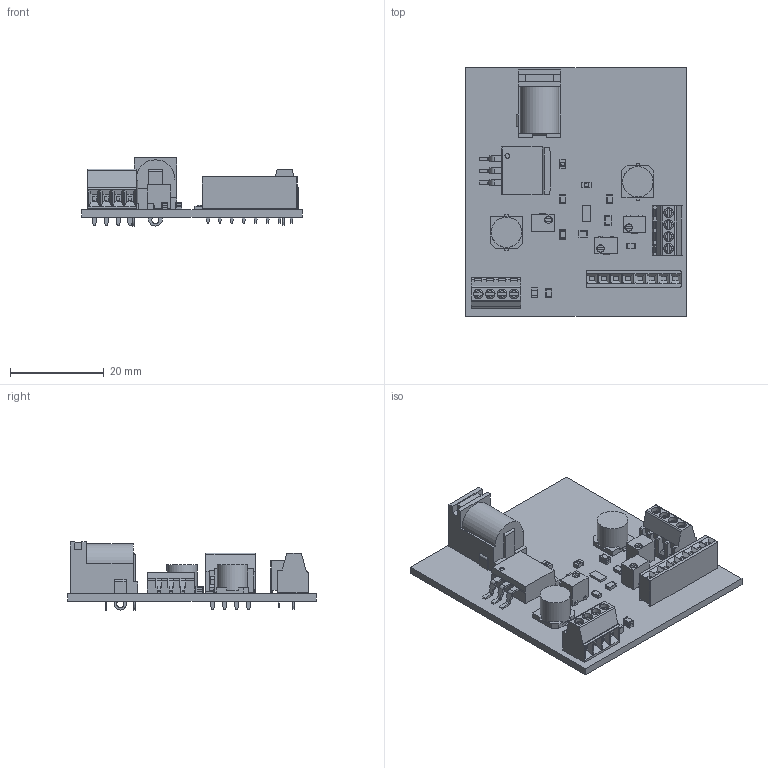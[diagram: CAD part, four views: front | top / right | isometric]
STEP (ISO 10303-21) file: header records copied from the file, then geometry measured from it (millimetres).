
FILE_DESCRIPTION(('Open CASCADE Model'),'2;1');
FILE_NAME('Open CASCADE Shape Model','2023-03-08T18:47:17',('Author'),( 'Open CASCADE'),'Open CASCADE STEP processor 7.5','Open CASCADE 7.5' ,'Unknown');
FILE_SCHEMA(('AUTOMOTIVE_DESIGN { 1 0 10303 214 1 1 1 1 }'));
Length unit declared in the file: millimetre
Products named in the file (64): PCB; Board; Open CASCADE STEP translator 7.5 5.1.1; C2; CAP_EEFK_D; 7072848672; Extruded; C3; 6554733248; Terminal; Open CASCADE STEP translator 6.8 1.1.1; Open CASCADE STEP translator 6.8 1.1.2; Mid_Body; Open CASCADE STEP translator 6.8 1.2.1; C4; CAPC2012X95N EIA 0805; C5; C6; 6554740768; C7; Cap_Yageo_CC0805KKX7R7BB105_eec; Assem1; body; Pin; logo; C8; C1; U1; KTT0003B; BODY-TO; HTSINK-TO263; LEAD-TO263; P2; OSTVN04A150--3DModel-STEP-56544; P1; c-5-535541-6-n-3d; R1; User Library-Chip Resistor2; R2; U2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
Assembly tree (79 placements, depth 5):
  PCB
    Board
      Open CASCADE STEP translator 7.5 5.1.1
    C2
      CAP_EEFK_D
      7072848672
        Extruded
    C3
      6554733248
        Terminal
          Open CASCADE STEP translator 6.8 1.1.1
          Open CASCADE STEP translator 6.8 1.1.2
        Mid_Body
          Open CASCADE STEP translator 6.8 1.2.1
    C4
      CAPC2012X95N EIA 0805  x2
    C5
      CAPC2012X95N EIA 0805  x2
    C6
      6554740768
        Terminal
          Open CASCADE STEP translator 6.8 1.1.1
          Open CASCADE STEP translator 6.8 1.1.2
        Mid_Body
          Open CASCADE STEP translator 6.8 1.2.1
    C7
      Cap_Yageo_CC0805KKX7R7BB105_eec
        Assem1
          body
          Pin
          logo
    C8
      CAP_EEFK_D
      7072848672
        Extruded
    C1
      Cap_Yageo_CC0805KKX7R7BB105_eec
        Assem1
          body
          Pin
          logo
    U1
      KTT0003B
        BODY-TO
        HTSINK-TO263
        LEAD-TO263  x3
    P2
      OSTVN04A150--3DModel-STEP-56544
    P1
      c-5-535541-6-n-3d
    R1
      User Library-Chip Resistor2
    R2
      User Library-Chip Resistor2
    U2
      7072851712
        Extruded
    VR1
      SM-43TW2k_(202)
        _SM-43W
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Bounding box: 47 x 53 x 14.5 mm (x, y, z)
Volume: 7121.7 mm3; surface area: 10623.7 mm2
Topology: 107 solids, 195 shells, 2087 faces, 5276 edges, 3418 vertices
Faces by surface type: plane 1413, cylinder 466, sphere 96, bspline 74, torus 36, cone 2
Full cylindrical faces by diameter (mm): 1.5 x3, 1.6 x3, 6.462 x2
Entity records: 37343 total; most frequent: CARTESIAN_POINT 8264, DIRECTION 5322, ORIENTED_EDGE 5242, EDGE_CURVE 2727, LINE 2176, VECTOR 2176, VERTEX_POINT 1812, AXIS2_PLACEMENT_3D 1573
